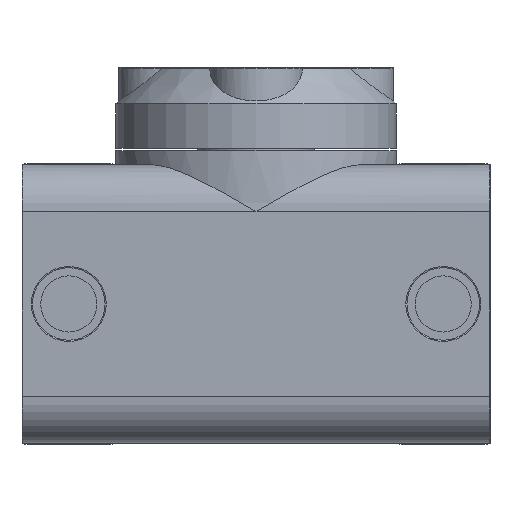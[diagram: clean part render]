
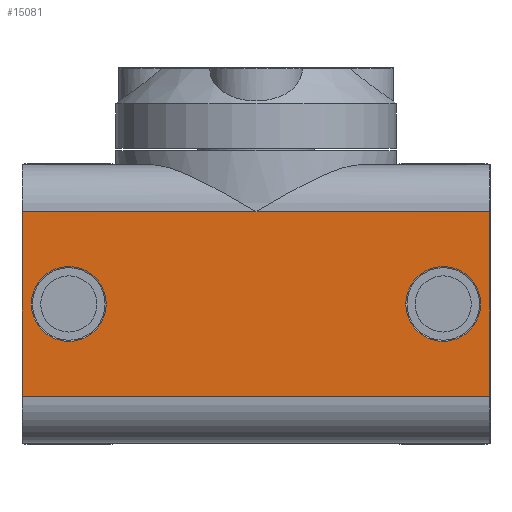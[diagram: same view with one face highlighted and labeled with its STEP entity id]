
A CAD part, left-side view. The second image highlights one B-rep face of the part: STEP entity #15081.
In plain terms, the highlighted planar face has unit normal (-1, 0, 0).
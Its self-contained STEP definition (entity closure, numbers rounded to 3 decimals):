
#836=CIRCLE('',#16054,3.2);
#960=CIRCLE('',#16320,3.2);
#3320=ORIENTED_EDGE('',*,*,#5244,.T.);
#3321=ORIENTED_EDGE('',*,*,#4884,.T.);
#3322=ORIENTED_EDGE('',*,*,#5241,.T.);
#3323=ORIENTED_EDGE('',*,*,#5245,.T.);
#3324=ORIENTED_EDGE('',*,*,#5246,.T.);
#3325=ORIENTED_EDGE('',*,*,#5247,.T.);
#3326=ORIENTED_EDGE('',*,*,#4946,.T.);
#4884=EDGE_CURVE('',#6116,#6116,#836,.T.);
#4946=EDGE_CURVE('',#6160,#6123,#6805,.F.);
#5241=EDGE_CURVE('',#6123,#6342,#7006,.F.);
#5244=EDGE_CURVE('',#6344,#6344,#960,.T.);
#5245=EDGE_CURVE('',#6342,#6345,#7008,.T.);
#5246=EDGE_CURVE('',#6345,#6346,#7009,.T.);
#5247=EDGE_CURVE('',#6346,#6160,#7010,.T.);
#6116=VERTEX_POINT('',#22270);
#6123=VERTEX_POINT('',#22291);
#6160=VERTEX_POINT('',#22416);
#6342=VERTEX_POINT('',#23004);
#6344=VERTEX_POINT('',#23010);
#6345=VERTEX_POINT('',#23012);
#6346=VERTEX_POINT('',#23014);
#6805=LINE('',#22415,#7467);
#7006=LINE('',#23003,#7668);
#7008=LINE('',#23011,#7670);
#7009=LINE('',#23013,#7671);
#7010=LINE('',#23015,#7672);
#7467=VECTOR('',#18643,1000.);
#7668=VECTOR('',#19254,1000.);
#7670=VECTOR('',#19262,1000.);
#7671=VECTOR('',#19263,1000.);
#7672=VECTOR('',#19264,1000.);
#8478=EDGE_LOOP('',(#3320));
#8479=EDGE_LOOP('',(#3321));
#8480=EDGE_LOOP('',(#3322,#3323,#3324,#3325,#3326));
#9392=FACE_BOUND('',#8478,.T.);
#9393=FACE_BOUND('',#8479,.T.);
#9394=FACE_BOUND('',#8480,.T.);
#9846=PLANE('',#16319);
#15081=ADVANCED_FACE('',(#9392,#9393,#9394),#9846,.F.);
#16054=AXIS2_PLACEMENT_3D('',#22269,#18494,#18495);
#16319=AXIS2_PLACEMENT_3D('',#23008,#19258,#19259);
#16320=AXIS2_PLACEMENT_3D('',#23009,#19260,#19261);
#18494=DIRECTION('',(1.,0.,0.));
#18495=DIRECTION('',(0.,0.,-1.));
#18643=DIRECTION('',(0.,-1.,0.));
#19254=DIRECTION('',(0.,-1.,0.));
#19258=DIRECTION('',(1.,0.,0.));
#19259=DIRECTION('',(0.,0.,-1.));
#19260=DIRECTION('',(1.,0.,0.));
#19261=DIRECTION('',(0.,0.,-1.));
#19262=DIRECTION('',(0.,0.,-1.));
#19263=DIRECTION('',(0.,-1.,0.));
#19264=DIRECTION('',(0.,0.,1.));
#22269=CARTESIAN_POINT('',(-36.,-16.,0.));
#22270=CARTESIAN_POINT('',(-36.,-16.,-3.2));
#22291=CARTESIAN_POINT('',(-36.,0.,7.9));
#22415=CARTESIAN_POINT('',(-36.,19.9,7.9));
#22416=CARTESIAN_POINT('',(-36.,-20.,7.9));
#23003=CARTESIAN_POINT('',(-36.,19.9,7.9));
#23004=CARTESIAN_POINT('',(-36.,20.,7.9));
#23008=CARTESIAN_POINT('',(-36.,19.9,11.9));
#23009=CARTESIAN_POINT('',(-36.,16.,0.));
#23010=CARTESIAN_POINT('',(-36.,16.,-3.2));
#23011=CARTESIAN_POINT('',(-36.,20.,7.9));
#23012=CARTESIAN_POINT('',(-36.,20.,-7.9));
#23013=CARTESIAN_POINT('',(-36.,19.9,-7.9));
#23014=CARTESIAN_POINT('',(-36.,-20.,-7.9));
#23015=CARTESIAN_POINT('',(-36.,-20.,-7.9));
